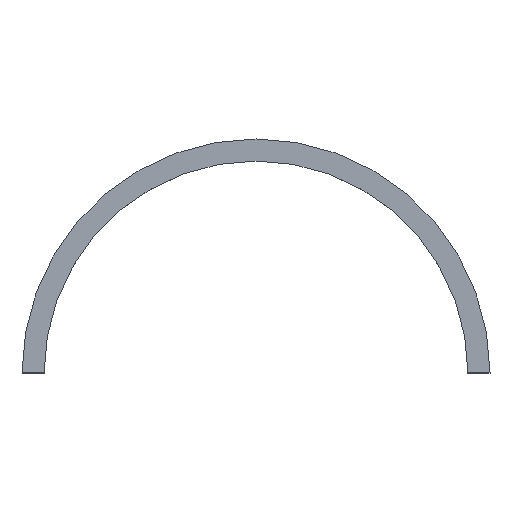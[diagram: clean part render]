
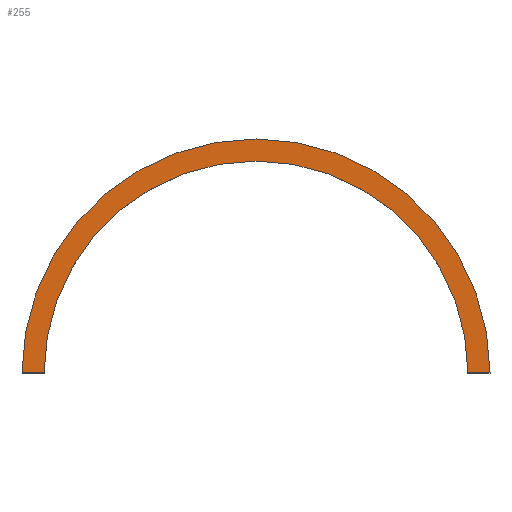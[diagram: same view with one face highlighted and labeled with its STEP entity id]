
A CAD part, top view. The second image highlights one B-rep face of the part: STEP entity #255.
In plain terms, the highlighted planar face has unit normal (0, 0, 1).
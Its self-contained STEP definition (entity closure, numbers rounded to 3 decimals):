
#33 = CYLINDRICAL_SURFACE('',#34,31.8);
#34 = AXIS2_PLACEMENT_3D('',#35,#36,#37);
#35 = CARTESIAN_POINT('',(0.,0.,0.));
#36 = DIRECTION('',(-0.,-0.,-1.));
#37 = DIRECTION('',(1.,0.,0.));
#58 = VERTEX_POINT('',#59);
#59 = CARTESIAN_POINT('',(31.8,0.,2.));
#73 = PLANE('',#74);
#74 = AXIS2_PLACEMENT_3D('',#75,#76,#77);
#75 = CARTESIAN_POINT('',(-50.,0.,-1.));
#76 = DIRECTION('',(0.,1.,0.));
#77 = DIRECTION('',(0.,0.,1.));
#85 = EDGE_CURVE('',#58,#86,#88,.T.);
#86 = VERTEX_POINT('',#87);
#87 = CARTESIAN_POINT('',(-31.8,0.,2.));
#88 = SURFACE_CURVE('',#89,(#94,#101),.PCURVE_S1.);
#89 = CIRCLE('',#90,31.8);
#90 = AXIS2_PLACEMENT_3D('',#91,#92,#93);
#91 = CARTESIAN_POINT('',(0.,0.,2.));
#92 = DIRECTION('',(0.,0.,1.));
#93 = DIRECTION('',(1.,0.,0.));
#94 = PCURVE('',#33,#95);
#95 = DEFINITIONAL_REPRESENTATION('',(#96),#100);
#96 = LINE('',#97,#98);
#97 = CARTESIAN_POINT('',(-0.,-2.));
#98 = VECTOR('',#99,1.);
#99 = DIRECTION('',(-1.,0.));
#100 = ( GEOMETRIC_REPRESENTATION_CONTEXT(2) 
PARAMETRIC_REPRESENTATION_CONTEXT() REPRESENTATION_CONTEXT('2D SPACE',''
  ) );
#101 = PCURVE('',#102,#107);
#102 = PLANE('',#103);
#103 = AXIS2_PLACEMENT_3D('',#104,#105,#106);
#104 = CARTESIAN_POINT('',(0.,0.,2.));
#105 = DIRECTION('',(0.,0.,1.));
#106 = DIRECTION('',(1.,0.,-0.));
#107 = DEFINITIONAL_REPRESENTATION('',(#108),#112);
#108 = CIRCLE('',#109,31.8);
#109 = AXIS2_PLACEMENT_2D('',#110,#111);
#110 = CARTESIAN_POINT('',(0.,0.));
#111 = DIRECTION('',(1.,0.));
#112 = ( GEOMETRIC_REPRESENTATION_CONTEXT(2) 
PARAMETRIC_REPRESENTATION_CONTEXT() REPRESENTATION_CONTEXT('2D SPACE',''
  ) );
#127 = PLANE('',#128);
#128 = AXIS2_PLACEMENT_3D('',#129,#130,#131);
#129 = CARTESIAN_POINT('',(-50.,0.,-1.));
#130 = DIRECTION('',(0.,1.,0.));
#131 = DIRECTION('',(0.,0.,1.));
#199 = CYLINDRICAL_SURFACE('',#200,28.8);
#200 = AXIS2_PLACEMENT_3D('',#201,#202,#203);
#201 = CARTESIAN_POINT('',(0.,0.,0.));
#202 = DIRECTION('',(-0.,-0.,-1.));
#203 = DIRECTION('',(1.,0.,0.));
#215 = EDGE_CURVE('',#216,#86,#218,.T.);
#216 = VERTEX_POINT('',#217);
#217 = CARTESIAN_POINT('',(-28.8,0.,2.));
#218 = SURFACE_CURVE('',#219,(#223,#229),.PCURVE_S1.);
#219 = LINE('',#220,#221);
#220 = CARTESIAN_POINT('',(-25.,0.,2.));
#221 = VECTOR('',#222,1.);
#222 = DIRECTION('',(-1.,0.,0.));
#223 = PCURVE('',#127,#224);
#224 = DEFINITIONAL_REPRESENTATION('',(#225),#228);
#225 = B_SPLINE_CURVE_WITH_KNOTS('',1,(#226,#227),.UNSPECIFIED.,.F.,.F.,
  (2,2),(-56.8,6.8),.PIECEWISE_BEZIER_KNOTS.);
#226 = CARTESIAN_POINT('',(3.,81.8));
#227 = CARTESIAN_POINT('',(3.,18.2));
#228 = ( GEOMETRIC_REPRESENTATION_CONTEXT(2) 
PARAMETRIC_REPRESENTATION_CONTEXT() REPRESENTATION_CONTEXT('2D SPACE',''
  ) );
#229 = PCURVE('',#102,#230);
#230 = DEFINITIONAL_REPRESENTATION('',(#231),#234);
#231 = B_SPLINE_CURVE_WITH_KNOTS('',1,(#232,#233),.UNSPECIFIED.,.F.,.F.,
  (2,2),(-56.8,6.8),.PIECEWISE_BEZIER_KNOTS.);
#232 = CARTESIAN_POINT('',(31.8,0.));
#233 = CARTESIAN_POINT('',(-31.8,0.));
#234 = ( GEOMETRIC_REPRESENTATION_CONTEXT(2) 
PARAMETRIC_REPRESENTATION_CONTEXT() REPRESENTATION_CONTEXT('2D SPACE',''
  ) );
#255 = ADVANCED_FACE('',(#256),#102,.T.);
#256 = FACE_BOUND('',#257,.T.);
#257 = EDGE_LOOP('',(#258,#279,#280,#281));
#258 = ORIENTED_EDGE('',*,*,#259,.F.);
#259 = EDGE_CURVE('',#58,#260,#262,.T.);
#260 = VERTEX_POINT('',#261);
#261 = CARTESIAN_POINT('',(28.8,0.,2.));
#262 = SURFACE_CURVE('',#263,(#267,#273),.PCURVE_S1.);
#263 = LINE('',#264,#265);
#264 = CARTESIAN_POINT('',(-25.,0.,2.));
#265 = VECTOR('',#266,1.);
#266 = DIRECTION('',(-1.,0.,0.));
#267 = PCURVE('',#102,#268);
#268 = DEFINITIONAL_REPRESENTATION('',(#269),#272);
#269 = B_SPLINE_CURVE_WITH_KNOTS('',1,(#270,#271),.UNSPECIFIED.,.F.,.F.,
  (2,2),(-56.8,6.8),.PIECEWISE_BEZIER_KNOTS.);
#270 = CARTESIAN_POINT('',(31.8,0.));
#271 = CARTESIAN_POINT('',(-31.8,0.));
#272 = ( GEOMETRIC_REPRESENTATION_CONTEXT(2) 
PARAMETRIC_REPRESENTATION_CONTEXT() REPRESENTATION_CONTEXT('2D SPACE',''
  ) );
#273 = PCURVE('',#73,#274);
#274 = DEFINITIONAL_REPRESENTATION('',(#275),#278);
#275 = B_SPLINE_CURVE_WITH_KNOTS('',1,(#276,#277),.UNSPECIFIED.,.F.,.F.,
  (2,2),(-56.8,6.8),.PIECEWISE_BEZIER_KNOTS.);
#276 = CARTESIAN_POINT('',(3.,81.8));
#277 = CARTESIAN_POINT('',(3.,18.2));
#278 = ( GEOMETRIC_REPRESENTATION_CONTEXT(2) 
PARAMETRIC_REPRESENTATION_CONTEXT() REPRESENTATION_CONTEXT('2D SPACE',''
  ) );
#279 = ORIENTED_EDGE('',*,*,#85,.T.);
#280 = ORIENTED_EDGE('',*,*,#215,.F.);
#281 = ORIENTED_EDGE('',*,*,#282,.F.);
#282 = EDGE_CURVE('',#260,#216,#283,.T.);
#283 = SURFACE_CURVE('',#284,(#289,#296),.PCURVE_S1.);
#284 = CIRCLE('',#285,28.8);
#285 = AXIS2_PLACEMENT_3D('',#286,#287,#288);
#286 = CARTESIAN_POINT('',(0.,0.,2.));
#287 = DIRECTION('',(0.,0.,1.));
#288 = DIRECTION('',(1.,0.,0.));
#289 = PCURVE('',#102,#290);
#290 = DEFINITIONAL_REPRESENTATION('',(#291),#295);
#291 = CIRCLE('',#292,28.8);
#292 = AXIS2_PLACEMENT_2D('',#293,#294);
#293 = CARTESIAN_POINT('',(0.,0.));
#294 = DIRECTION('',(1.,0.));
#295 = ( GEOMETRIC_REPRESENTATION_CONTEXT(2) 
PARAMETRIC_REPRESENTATION_CONTEXT() REPRESENTATION_CONTEXT('2D SPACE',''
  ) );
#296 = PCURVE('',#199,#297);
#297 = DEFINITIONAL_REPRESENTATION('',(#298),#302);
#298 = LINE('',#299,#300);
#299 = CARTESIAN_POINT('',(-0.,-2.));
#300 = VECTOR('',#301,1.);
#301 = DIRECTION('',(-1.,0.));
#302 = ( GEOMETRIC_REPRESENTATION_CONTEXT(2) 
PARAMETRIC_REPRESENTATION_CONTEXT() REPRESENTATION_CONTEXT('2D SPACE',''
  ) );
